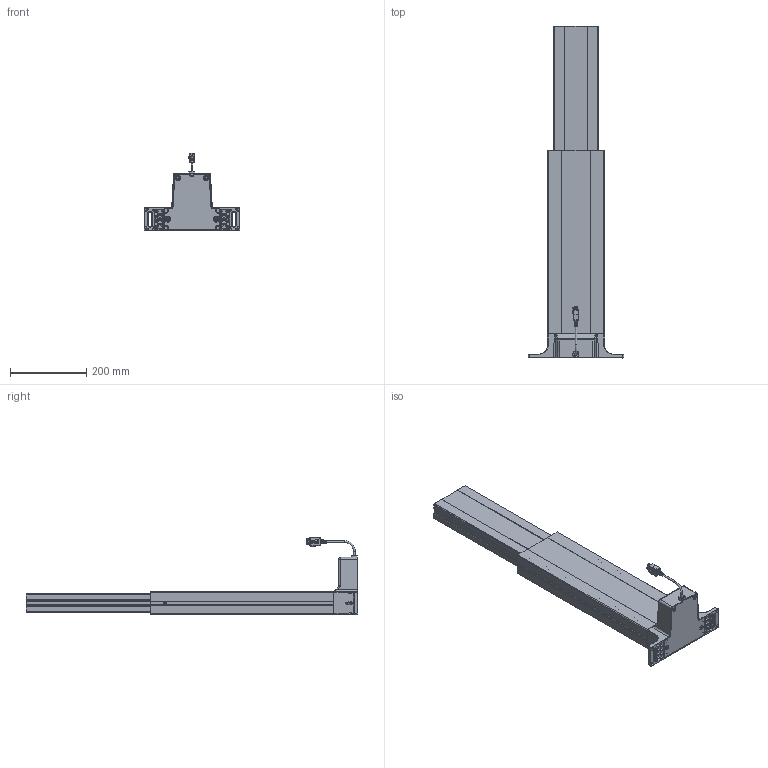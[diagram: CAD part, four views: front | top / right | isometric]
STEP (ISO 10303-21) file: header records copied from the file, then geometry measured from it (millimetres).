
FILE_DESCRIPTION(/* description */ ('Unknown'),/* implementation_level */ '2;1');
FILE_NAME(/* name */ '909.01003_01-Ausgefahren',/* time_stamp */ '2024-12-03T11:20:06+01:00',/* author */ ('Unknown'),/* organization */ ('Unknown'),/* preprocessor_version */ 'ST-DEVELOPER v18.102',/* originating_system */ 'Solid Edge',/* authorisation */ 'Unknown');
FILE_SCHEMA (('AUTOMOTIVE_DESIGN {1 0 10303 214 3 1 1}'));
Products named in the file (10): 909.01003; 126.00190; 119.00554; 124.00124; 110.00120_oa_0; 128.00075; 119.00553; Kabel Molex; 142.00341; 142.00166
Assembly tree (13 placements, depth 2):
  909.01003
    126.00190
    119.00554
    124.00124
    110.00120_oa_0
    128.00075
    119.00553
    Kabel Molex
    142.00341  x2
    142.00166  x4
Bounding box: 250.17 x 870 x 203.2 mm (x, y, z)
Volume: 1737963.4 mm3; surface area: 1012595.3 mm2
Topology: 12 solids, 12 shells, 5740 faces, 13925 edges, 7980 vertices
Faces by surface type: cylinder 2074, bspline 1995, plane 1252, torus 247, cone 114, sphere 58
Full cylindrical faces by diameter (mm): 3 x3, 3.242 x4, 4 x2, 4.7 x4, 5 x6, 6 x4, 7 x2, 8.5 x4, 14 x1, 30 x2
Entity records: 393394 total; most frequent: CARTESIAN_POINT 271021, ORIENTED_EDGE 26628, DIRECTION 21686, EDGE_CURVE 13314, AXIS2_PLACEMENT_3D 8371, VERTEX_POINT 7862, EDGE_LOOP 5936, FACE_BOUND 5936
